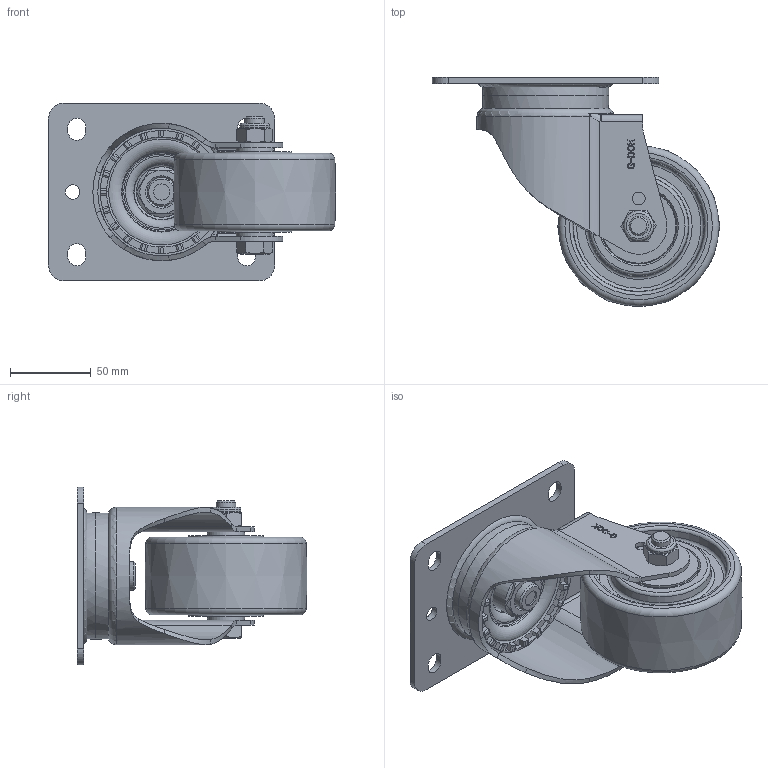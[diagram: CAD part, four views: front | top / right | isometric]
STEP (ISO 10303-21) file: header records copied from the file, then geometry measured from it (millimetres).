
FILE_DESCRIPTION(/* description */ (''),/* implementation_level */ '2;1');
FILE_NAME(/* name */ 'C:\Users\admin\Desktop\업무폴더\일자별 업무\2026\05월\05.15\변환\SPH-100-ASF-NYD-PEU.ipt.stp',/* time_stamp */ '2026-05-15T13:16:27+09:00',/* author */ ('admin'),/* organization */ ('지덕산업'),/* preprocessor_version */ 'ST-DEVELOPER v18.1',/* originating_system */ 'Autodesk Inventor 2021',/* authorisation */ '');
FILE_SCHEMA (('CONFIG_CONTROL_DESIGN'));
Length unit declared in the file: millimetre
Products named in the file (1): SPH-100-ASF-NYD-PEU
Bounding box: 177.5 x 141.96 x 110 mm (x, y, z)
Volume: 558771.9 mm3; surface area: 108414.4 mm2
Topology: 1 solids, 1 shells, 1187 faces, 3186 edges, 2093 vertices
Faces by surface type: plane 546, bspline 434, cylinder 142, cone 35, torus 30
Full cylindrical faces by diameter (mm): 8 x2, 9 x2, 10 x1, 12 x1, 18 x2, 18.5 x1, 31 x1, 31.177 x1, 46.001 x2, 47 x2
Entity records: 39248 total; most frequent: CARTESIAN_POINT 12382, ORIENTED_EDGE 6368, DIRECTION 4093, EDGE_CURVE 3184, VERTEX_POINT 2093, LINE 1835, VECTOR 1835, EDGE_LOOP 1299
